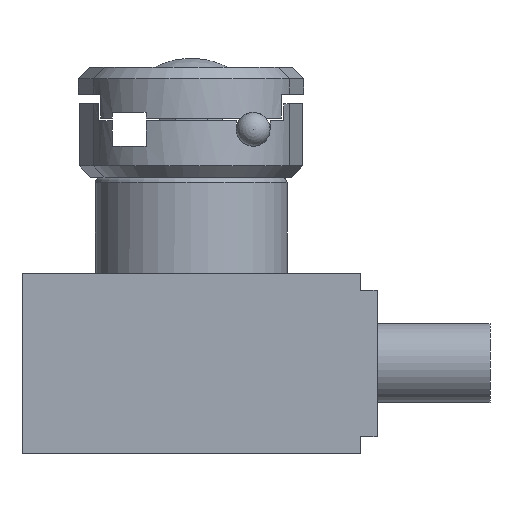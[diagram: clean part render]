
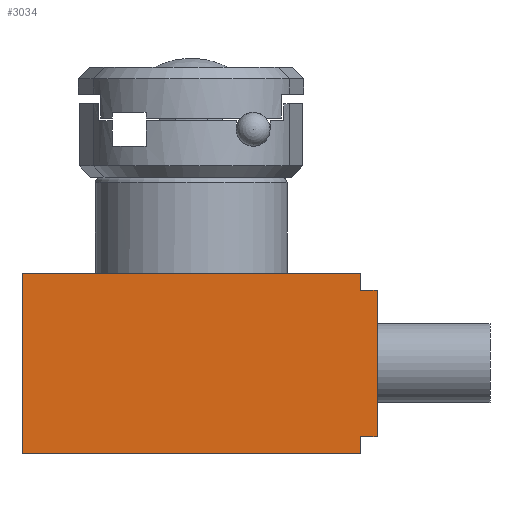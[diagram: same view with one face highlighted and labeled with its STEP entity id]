
A CAD part, front view. The second image highlights one B-rep face of the part: STEP entity #3034.
In plain terms, the highlighted planar face has unit normal (0, -1, 0) as drawn and (0, 0, -1) by its records, which use the part's own axes.
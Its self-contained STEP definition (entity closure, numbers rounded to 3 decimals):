
#321=LINE('',#4816,#635);
#325=LINE('',#4827,#639);
#333=LINE('',#4842,#647);
#365=LINE('',#4945,#679);
#381=LINE('',#4990,#695);
#397=LINE('',#5023,#711);
#400=LINE('',#5028,#714);
#401=LINE('',#5030,#715);
#635=VECTOR('',#3925,13.);
#639=VECTOR('',#3933,1.5);
#647=VECTOR('',#3941,1.5);
#679=VECTOR('',#4045,30.);
#695=VECTOR('',#4089,16.);
#711=VECTOR('',#4127,30.);
#714=VECTOR('',#4134,1.5);
#715=VECTOR('',#4137,1.5);
#832=PLANE('',#3299);
#1031=FACE_OUTER_BOUND('',#1227,.T.);
#1227=EDGE_LOOP('',(#2817,#2818,#2819,#2820,#2821,#2822,#2823,#2824));
#1530=VERTEX_POINT('',#4813);
#1531=VERTEX_POINT('',#4815);
#1533=VERTEX_POINT('',#4820);
#1535=VERTEX_POINT('',#4824);
#1536=VERTEX_POINT('',#4826);
#1543=VERTEX_POINT('',#4840);
#1578=VERTEX_POINT('',#4943);
#1593=VERTEX_POINT('',#4988);
#1904=EDGE_CURVE('',#1531,#1530,#321,.T.);
#1909=EDGE_CURVE('',#1536,#1535,#325,.T.);
#1917=EDGE_CURVE('',#1533,#1543,#333,.T.);
#1966=EDGE_CURVE('',#1543,#1578,#365,.T.);
#1988=EDGE_CURVE('',#1593,#1578,#381,.T.);
#2005=EDGE_CURVE('',#1593,#1536,#397,.T.);
#2008=EDGE_CURVE('',#1535,#1531,#400,.T.);
#2009=EDGE_CURVE('',#1533,#1530,#401,.T.);
#2817=ORIENTED_EDGE('',*,*,#1904,.T.);
#2818=ORIENTED_EDGE('',*,*,#2009,.F.);
#2819=ORIENTED_EDGE('',*,*,#1917,.T.);
#2820=ORIENTED_EDGE('',*,*,#1966,.T.);
#2821=ORIENTED_EDGE('',*,*,#1988,.F.);
#2822=ORIENTED_EDGE('',*,*,#2005,.T.);
#2823=ORIENTED_EDGE('',*,*,#1909,.T.);
#2824=ORIENTED_EDGE('',*,*,#2008,.T.);
#3034=ADVANCED_FACE('',(#1031),#832,.T.);
#3299=AXIS2_PLACEMENT_3D('',#5029,#4135,#4136);
#3925=DIRECTION('',(0.,-1.,0.));
#3933=DIRECTION('',(0.,-1.,0.));
#3941=DIRECTION('',(0.,-1.,0.));
#4045=DIRECTION('',(-1.,0.,0.));
#4089=DIRECTION('',(0.,-1.,0.));
#4127=DIRECTION('',(1.,0.,0.));
#4134=DIRECTION('',(1.,0.,0.));
#4135=DIRECTION('center_axis',(0.,0.,-1.));
#4136=DIRECTION('ref_axis',(-1.,0.,0.));
#4137=DIRECTION('',(1.,0.,0.));
#4813=CARTESIAN_POINT('',(16.5,-14.5,-40.));
#4815=CARTESIAN_POINT('',(16.5,-1.5,-40.));
#4816=CARTESIAN_POINT('',(16.5,-1.5,-40.));
#4820=CARTESIAN_POINT('',(15.,-14.5,-40.));
#4824=CARTESIAN_POINT('',(15.,-1.5,-40.));
#4826=CARTESIAN_POINT('',(15.,0.,-40.));
#4827=CARTESIAN_POINT('',(15.,0.,-40.));
#4840=CARTESIAN_POINT('',(15.,-16.,-40.));
#4842=CARTESIAN_POINT('',(15.,-14.5,-40.));
#4943=CARTESIAN_POINT('',(-15.,-16.,-40.));
#4945=CARTESIAN_POINT('',(15.,-16.,-40.));
#4988=CARTESIAN_POINT('',(-15.,0.,-40.));
#4990=CARTESIAN_POINT('',(-15.,0.,-40.));
#5023=CARTESIAN_POINT('',(-15.,0.,-40.));
#5028=CARTESIAN_POINT('',(15.,-1.5,-40.));
#5029=CARTESIAN_POINT('Origin',(15.,-1.5,-40.));
#5030=CARTESIAN_POINT('',(15.,-14.5,-40.));
